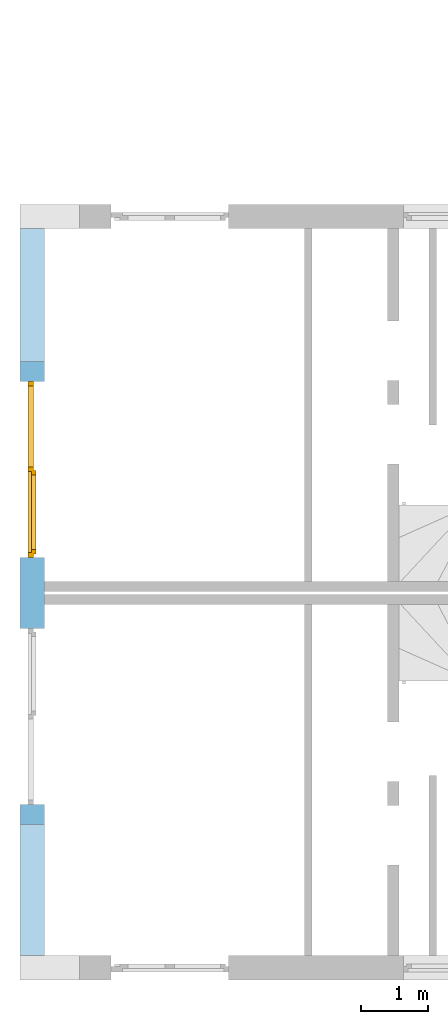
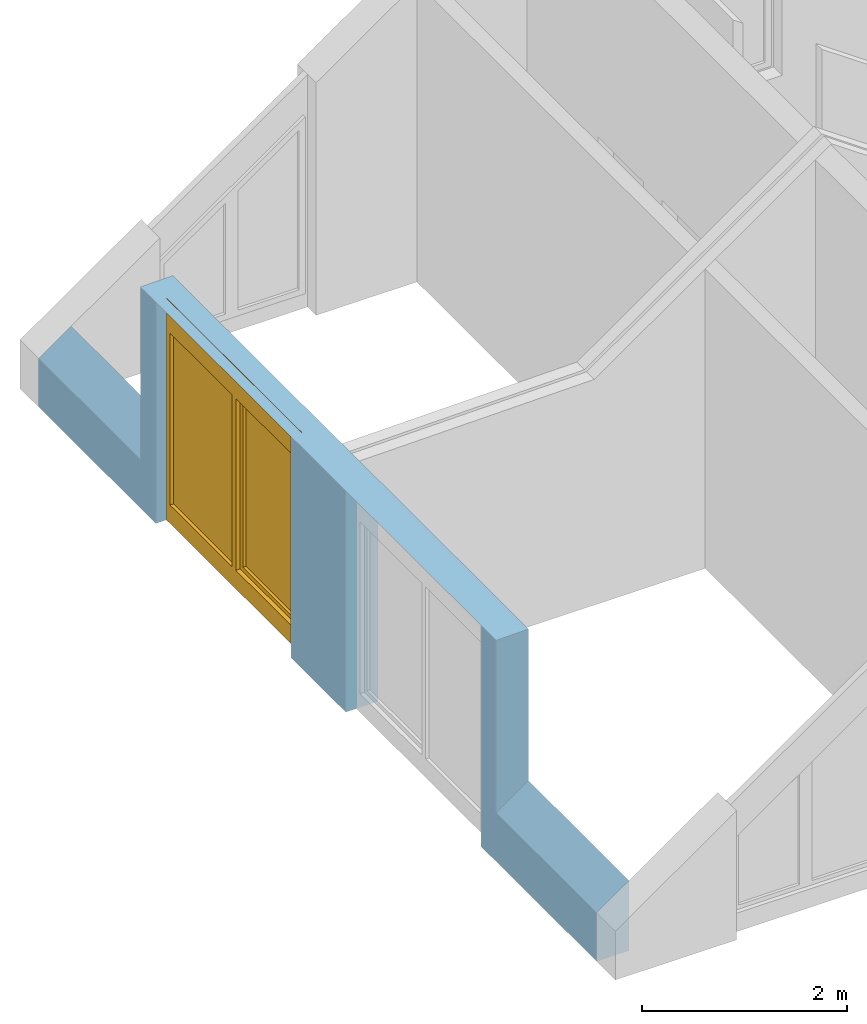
# One storey, part 6 of 23: 1 window, 2 openings, plus 1 element that does not belong to this part.
"""IFC2X3 building model written with IfcOpenShell, lengths in millimetres."""

from ifc_helpers import new_model, entity, si_unit, converted_unit, frame, frame_2d, origin, origin_with_axes, place, context, subcontext, project, spatial, polyline, rectangle, extrude, clip, bounded_halfspace, faceted_brep, material, layer, layer_set, layer_usage, type_object, element, fill, save


model = new_model("IFC2X3")

# Units and contexts
model_context = context("Model", 3, precision=1e-05, world=origin())
body_context = subcontext(model_context, "Body", "Model", "MODEL_VIEW")
ifc_project = project(units=[si_unit("LENGTHUNIT", "METRE", prefix="MILLI"), converted_unit("PLANEANGLEUNIT", "DEGREE", entity("IfcPlaneAngleMeasure", 0.0174532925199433), si_unit("PLANEANGLEUNIT", "RADIAN"), dimensions=[0, 0, 0, 0, 0, 0, 0]), si_unit("AREAUNIT", "SQUARE_METRE"), si_unit("VOLUMEUNIT", "CUBIC_METRE")], contexts=[model_context])

# Building, storey
building_placement = place(None, origin())
building = spatial("IfcBuilding", under=ifc_project, at=building_placement, Name="Gebäude", CompositionType="ELEMENT")
storey_placement = place(building_placement, frame((0.0, 0.0, 5580.0), z_axis=(0.0, 0.0, 1.0), x_axis=(1.0, 0.0, 0.0)))
storey = spatial("IfcBuildingStorey", under=building, at=storey_placement, Name="DG.- Grundriss", CompositionType="ELEMENT", Elevation=5580.0)

# Wall, openings, window
ifc_material_1 = material(Name="Poroton")
ifc_layer = layer(ifc_material_1, 365.0)
ifc_layer_set = layer_set([ifc_layer])
ifc_layer_usage = layer_usage(ifc_layer_set, "AXIS2", "POSITIVE", 0.0)
wall_placement = place(storey_placement, frame((130992.7928067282, 136524.8877324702, 0.0), z_axis=(0.0, 0.0, 1.0), x_axis=(1.336877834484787e-14, -1.0, 0.0)))
wall = element("IfcWallStandardCase", 1, at=wall_placement, inside=storey, material=ifc_layer_usage, Name="<Unnamed Element>", context=body_context, shape_type="Clipping", body=[
    clip(clip(clip(extrude(rectangle(XDim=10884.99999999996, YDim=365.0, at=frame_2d((5442.499999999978, 182.5), x_axis=(1.0, 0.0))), origin_with_axes(), (0.0, 0.0, 1.0), 2641.54564934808), bounded_halfspace(frame((4.879604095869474e-12, 365.0, 835.5757514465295), z_axis=(7.329234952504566e-15, 0.5735764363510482, -0.8191520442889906), x_axis=(-1.095106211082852e-14, -0.81915204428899, -0.5735764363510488)), True, origin(), polyline([(4.879604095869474e-12, 365.0), (0.0, 0.0), (1984.987487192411, 2.566972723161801e-12), (1984.987487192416, 365.0000000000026), (4.879604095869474e-12, 365.0)]))), bounded_halfspace(frame((8924.99999999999, 364.9999999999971, 835.5757514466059), z_axis=(7.320750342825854e-15, 0.5735764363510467, -0.8191520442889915), x_axis=(-1.095106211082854e-14, -0.8191520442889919, -0.573576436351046)), True, origin(), polyline([(8924.99999999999, 364.9999999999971), (8924.999999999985, -2.901024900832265e-12), (10884.99999999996, 0.0), (10885.00000001, 365.0), (8924.99999999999, 364.9999999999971)]))), bounded_halfspace(frame((1984.987487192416, 365.0000000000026, 2641.54564934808), z_axis=(1.372830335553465e-17, 0.01745240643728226, -0.9998476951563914), x_axis=(-1.336674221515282e-14, -0.9998476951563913, -0.01745240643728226)), True, origin(), polyline([(1984.987487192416, 365.0000000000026), (1984.987487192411, 2.566972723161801e-12), (8924.999999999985, -2.901024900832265e-12), (8924.99999999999, 364.9999999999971), (1984.987487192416, 365.0000000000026)]))),
])
opening_1_placement = place(wall_placement, frame((2284.987487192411, -4.147113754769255e-12, 0.0), z_axis=(0.0, 1.0, 0.0), x_axis=(0.0, 0.0, 1.0)))
opening_1 = element("IfcOpeningElement", 2, at=opening_1_placement, cuts=wall, Name="Fensteröffnung", ObjectType="Opening", context=body_context, shape_type="SweptSolid", body=[
    extrude(rectangle(XDim=2635.174550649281, YDim=2635.0, at=frame_2d((1317.58727532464, 1317.5), x_axis=(1.0, 0.0))), origin_with_axes(), (0.0, 0.0, 1.0), 365.0000000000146),
])
opening_2_placement = place(wall_placement, frame((5989.999999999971, 1.455191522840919e-13, 0.0), z_axis=(0.0, 1.0, 0.0), x_axis=(0.0, 0.0, 1.0)))
element("IfcOpeningElement", 3, at=opening_2_placement, cuts=wall, Name="Fensteröffnung", ObjectType="Opening", context=body_context, shape_type="SweptSolid", body=[
    extrude(rectangle(XDim=2635.174550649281, YDim=2635.0, at=frame_2d((1317.58727532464, 1317.5), x_axis=(1.0, 0.0))), origin_with_axes(), (0.0, 0.0, 1.0), 364.9999999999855),
])
ifc_material_2 = material()
window_style = type_object("IfcWindowStyle", Name="Fenster", ConstructionType="NOTDEFINED", OperationType="USERDEFINED", ParameterTakesPrecedence=False, Sizeable=False)
window_placement = place(opening_1_placement, frame((0.0, 0.0, 0.0), z_axis=(1.0, 0.0, 0.0), x_axis=(0.0, 1.0, 0.0)))
window = element("IfcWindow", 4, at=window_placement, inside=storey, type_object=window_style, material=ifc_material_2, Name="Fenster", OverallHeight=2641.54564934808, OverallWidth=2635.0, context=body_context, shape_type="Brep", body=[
    faceted_brep([(2635.000000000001, 199.9999999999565, 2637.269158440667), (2565.000000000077, 199.9999999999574, 2637.269158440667), (2565.000000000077, 199.9999999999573, -2.449293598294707e-15), (2635.000000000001, 199.9999999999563, -2.449293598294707e-15), (2635.0, 119.9999999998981, 2.449293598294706e-15), (2565.000000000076, 119.9999999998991, 2.449293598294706e-15), (2565.000000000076, 119.9999999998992, 2637.269158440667), (2635.0, 119.9999999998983, 2637.269158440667), (2635.000000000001, 199.9999999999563, -2.449293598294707e-15), (2635.0, 119.9999999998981, 2.449293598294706e-15), (2635.0, 119.9999999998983, 2637.269158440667), (2635.000000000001, 199.9999999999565, 2637.269158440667), (2565.000000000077, 199.9999999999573, -2.449293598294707e-15), (2565.000000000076, 119.9999999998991, 2.449293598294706e-15), (2635.0, 119.9999999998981, 2.449293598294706e-15), (2635.000000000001, 199.9999999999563, -2.449293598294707e-15), (2565.000000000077, 199.9999999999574, 2637.269158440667), (2565.000000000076, 119.9999999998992, 2637.269158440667), (2565.000000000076, 119.9999999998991, 2.449293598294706e-15), (2565.000000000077, 199.9999999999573, -2.449293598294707e-15), (2635.000000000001, 199.9999999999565, 2637.269158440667), (2635.0, 119.9999999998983, 2637.269158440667), (2565.000000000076, 119.9999999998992, 2637.269158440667), (2565.000000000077, 199.9999999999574, 2637.269158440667)], [[[0, 1, 2, 3]], [[4, 5, 6, 7]], [[8, 9, 10, 11]], [[12, 13, 14, 15]], [[16, 17, 18, 19]], [[20, 21, 22, 23]]], orient=[[False], [False], [False], [False], [False], [False]]),
    faceted_brep([(70.00000000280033, 199.9999999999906, 2637.269158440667), (2.876731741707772e-09, 199.9999999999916, 2637.269158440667), (2.876731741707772e-09, 199.9999999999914, -2.449293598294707e-15), (70.00000000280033, 199.9999999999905, -2.449293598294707e-15), (70.00000000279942, 119.9999999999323, 2.449293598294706e-15), (2.875822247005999e-09, 119.9999999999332, 2.449293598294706e-15), (2.875822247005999e-09, 119.9999999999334, 2637.269158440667), (70.00000000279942, 119.9999999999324, 2637.269158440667), (70.00000000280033, 199.9999999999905, -2.449293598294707e-15), (70.00000000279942, 119.9999999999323, 2.449293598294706e-15), (70.00000000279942, 119.9999999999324, 2637.269158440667), (70.00000000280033, 199.9999999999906, 2637.269158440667), (2.876731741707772e-09, 199.9999999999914, -2.449293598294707e-15), (2.875822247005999e-09, 119.9999999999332, 2.449293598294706e-15), (70.00000000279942, 119.9999999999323, 2.449293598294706e-15), (70.00000000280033, 199.9999999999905, -2.449293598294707e-15), (2.876731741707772e-09, 199.9999999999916, 2637.269158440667), (2.875822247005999e-09, 119.9999999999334, 2637.269158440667), (2.875822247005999e-09, 119.9999999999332, 2.449293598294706e-15), (2.876731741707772e-09, 199.9999999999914, -2.449293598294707e-15), (70.00000000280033, 199.9999999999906, 2637.269158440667), (70.00000000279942, 119.9999999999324, 2637.269158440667), (2.875822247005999e-09, 119.9999999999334, 2637.269158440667), (2.876731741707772e-09, 199.9999999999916, 2637.269158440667)], [[[0, 1, 2, 3]], [[4, 5, 6, 7]], [[8, 9, 10, 11]], [[12, 13, 14, 15]], [[16, 17, 18, 19]], [[20, 21, 22, 23]]], orient=[[False], [False], [False], [False], [False], [False]]),
    faceted_brep([(2565.000000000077, 199.9999999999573, 220.0), (70.00000000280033, 199.9999999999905, 220.0), (70.00000000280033, 199.9999999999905, -2.449293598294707e-15), (2565.000000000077, 199.9999999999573, -2.449293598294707e-15), (2565.000000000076, 119.9999999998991, 2.449293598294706e-15), (70.00000000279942, 119.9999999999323, 2.449293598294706e-15), (70.00000000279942, 119.9999999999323, 220.0), (2565.000000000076, 119.9999999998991, 220.0), (2565.000000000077, 199.9999999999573, -2.449293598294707e-15), (2565.000000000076, 119.9999999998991, 2.449293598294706e-15), (2565.000000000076, 119.9999999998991, 220.0), (2565.000000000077, 199.9999999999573, 220.0), (70.00000000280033, 199.9999999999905, -2.449293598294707e-15), (70.00000000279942, 119.9999999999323, 2.449293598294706e-15), (2565.000000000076, 119.9999999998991, 2.449293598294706e-15), (2565.000000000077, 199.9999999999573, -2.449293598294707e-15), (70.00000000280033, 199.9999999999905, 220.0), (70.00000000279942, 119.9999999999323, 220.0), (70.00000000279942, 119.9999999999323, 2.449293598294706e-15), (70.00000000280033, 199.9999999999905, -2.449293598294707e-15), (2565.000000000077, 199.9999999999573, 220.0), (2565.000000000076, 119.9999999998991, 220.0), (70.00000000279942, 119.9999999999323, 220.0), (70.00000000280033, 199.9999999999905, 220.0)], [[[0, 1, 2, 3]], [[4, 5, 6, 7]], [[8, 9, 10, 11]], [[12, 13, 14, 15]], [[16, 17, 18, 19]], [[20, 21, 22, 23]]], orient=[[False], [False], [False], [False], [False], [False]]),
    faceted_brep([(2565.000000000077, 199.9999999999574, 2637.269158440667), (70.00000000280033, 199.9999999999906, 2637.269158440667), (70.00000000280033, 199.9999999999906, 2267.269158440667), (2565.000000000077, 199.9999999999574, 2267.269158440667), (2565.000000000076, 119.9999999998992, 2267.269158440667), (70.00000000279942, 119.9999999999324, 2267.269158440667), (70.00000000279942, 119.9999999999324, 2637.269158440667), (2565.000000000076, 119.9999999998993, 2637.269158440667), (2565.000000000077, 199.9999999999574, 2267.269158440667), (2565.000000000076, 119.9999999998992, 2267.269158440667), (2565.000000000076, 119.9999999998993, 2637.269158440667), (2565.000000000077, 199.9999999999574, 2637.269158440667), (70.00000000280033, 199.9999999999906, 2267.269158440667), (70.00000000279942, 119.9999999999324, 2267.269158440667), (2565.000000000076, 119.9999999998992, 2267.269158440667), (2565.000000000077, 199.9999999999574, 2267.269158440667), (70.00000000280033, 199.9999999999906, 2637.269158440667), (70.00000000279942, 119.9999999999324, 2637.269158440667), (70.00000000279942, 119.9999999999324, 2267.269158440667), (70.00000000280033, 199.9999999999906, 2267.269158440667), (2565.000000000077, 199.9999999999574, 2637.269158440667), (2565.000000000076, 119.9999999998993, 2637.269158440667), (70.00000000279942, 119.9999999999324, 2637.269158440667), (70.00000000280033, 199.9999999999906, 2637.269158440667)], [[[0, 1, 2, 3]], [[4, 5, 6, 7]], [[8, 9, 10, 11]], [[12, 13, 14, 15]], [[16, 17, 18, 19]], [[20, 21, 22, 23]]], orient=[[False], [False], [False], [False], [False], [False]]),
    faceted_brep([(1352.500000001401, 199.9999999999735, 2267.269158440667), (1282.500000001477, 199.9999999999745, 2267.269158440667), (1282.500000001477, 199.9999999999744, 220.0), (1352.500000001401, 199.9999999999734, 220.0), (1352.5000000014, 119.9999999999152, 220.0), (1282.500000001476, 119.9999999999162, 220.0), (1282.500000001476, 119.9999999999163, 2267.269158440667), (1352.5000000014, 119.9999999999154, 2267.269158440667), (1352.500000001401, 199.9999999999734, 220.0), (1352.5000000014, 119.9999999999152, 220.0), (1352.5000000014, 119.9999999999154, 2267.269158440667), (1352.500000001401, 199.9999999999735, 2267.269158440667), (1282.500000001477, 199.9999999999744, 220.0), (1282.500000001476, 119.9999999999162, 220.0), (1352.5000000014, 119.9999999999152, 220.0), (1352.500000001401, 199.9999999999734, 220.0), (1282.500000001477, 199.9999999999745, 2267.269158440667), (1282.500000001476, 119.9999999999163, 2267.269158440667), (1282.500000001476, 119.9999999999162, 220.0), (1282.500000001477, 199.9999999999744, 220.0), (1352.500000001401, 199.9999999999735, 2267.269158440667), (1352.5000000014, 119.9999999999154, 2267.269158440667), (1282.500000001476, 119.9999999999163, 2267.269158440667), (1282.500000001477, 199.9999999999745, 2267.269158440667)], [[[0, 1, 2, 3]], [[4, 5, 6, 7]], [[8, 9, 10, 11]], [[12, 13, 14, 15]], [[16, 17, 18, 19]], [[20, 21, 22, 23]]], orient=[[False], [False], [False], [False], [False], [False]]),
    faceted_brep([(2585.000000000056, 239.9999999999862, 2287.269158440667), (2515.000000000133, 239.9999999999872, 2287.269158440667), (2515.000000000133, 239.999999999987, 200.0), (2585.000000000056, 239.9999999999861, 200.0), (2585.000000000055, 169.9999999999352, 200.0), (2515.000000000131, 169.9999999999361, 200.0), (2515.000000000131, 169.9999999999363, 2287.269158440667), (2585.000000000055, 169.9999999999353, 2287.269158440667), (2585.000000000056, 239.9999999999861, 200.0), (2585.000000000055, 169.9999999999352, 200.0), (2585.000000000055, 169.9999999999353, 2287.269158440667), (2585.000000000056, 239.9999999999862, 2287.269158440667), (2515.000000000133, 239.999999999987, 200.0), (2515.000000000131, 169.9999999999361, 200.0), (2585.000000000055, 169.9999999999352, 200.0), (2585.000000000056, 239.9999999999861, 200.0), (2515.000000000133, 239.9999999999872, 2287.269158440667), (2515.000000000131, 169.9999999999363, 2287.269158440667), (2515.000000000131, 169.9999999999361, 200.0), (2515.000000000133, 239.999999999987, 200.0), (2585.000000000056, 239.9999999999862, 2287.269158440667), (2585.000000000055, 169.9999999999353, 2287.269158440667), (2515.000000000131, 169.9999999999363, 2287.269158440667), (2515.000000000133, 239.9999999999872, 2287.269158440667)], [[[0, 1, 2, 3]], [[4, 5, 6, 7]], [[8, 9, 10, 11]], [[12, 13, 14, 15]], [[16, 17, 18, 19]], [[20, 21, 22, 23]]], orient=[[False], [False], [False], [False], [False], [False]]),
    faceted_brep([(1402.500000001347, 240.000000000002, 2287.269158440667), (1332.500000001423, 240.0000000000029, 2287.269158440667), (1332.500000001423, 240.0000000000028, 200.0), (1402.500000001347, 240.0000000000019, 200.0), (1402.500000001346, 169.9999999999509, 200.0), (1332.500000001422, 169.9999999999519, 200.0), (1332.500000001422, 169.999999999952, 2287.269158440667), (1402.500000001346, 169.9999999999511, 2287.269158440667), (1402.500000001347, 240.0000000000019, 200.0), (1402.500000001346, 169.9999999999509, 200.0), (1402.500000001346, 169.9999999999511, 2287.269158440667), (1402.500000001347, 240.000000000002, 2287.269158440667), (1332.500000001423, 240.0000000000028, 200.0), (1332.500000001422, 169.9999999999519, 200.0), (1402.500000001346, 169.9999999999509, 200.0), (1402.500000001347, 240.0000000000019, 200.0), (1332.500000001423, 240.0000000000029, 2287.269158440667), (1332.500000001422, 169.999999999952, 2287.269158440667), (1332.500000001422, 169.9999999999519, 200.0), (1332.500000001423, 240.0000000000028, 200.0), (1402.500000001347, 240.000000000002, 2287.269158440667), (1402.500000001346, 169.9999999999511, 2287.269158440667), (1332.500000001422, 169.999999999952, 2287.269158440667), (1332.500000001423, 240.0000000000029, 2287.269158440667)], [[[0, 1, 2, 3]], [[4, 5, 6, 7]], [[8, 9, 10, 11]], [[12, 13, 14, 15]], [[16, 17, 18, 19]], [[20, 21, 22, 23]]], orient=[[False], [False], [False], [False], [False], [False]]),
    faceted_brep([(2515.000000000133, 239.999999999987, 269.9999999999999), (1402.500000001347, 240.0000000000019, 269.9999999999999), (1402.500000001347, 240.0000000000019, 200.0), (2515.000000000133, 239.999999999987, 200.0), (2515.000000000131, 169.9999999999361, 200.0), (1402.500000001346, 169.9999999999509, 200.0), (1402.500000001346, 169.9999999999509, 269.9999999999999), (2515.000000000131, 169.9999999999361, 269.9999999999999), (2515.000000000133, 239.999999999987, 200.0), (2515.000000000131, 169.9999999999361, 200.0), (2515.000000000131, 169.9999999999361, 269.9999999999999), (2515.000000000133, 239.999999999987, 269.9999999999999), (1402.500000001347, 240.0000000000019, 200.0), (1402.500000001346, 169.9999999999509, 200.0), (2515.000000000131, 169.9999999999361, 200.0), (2515.000000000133, 239.999999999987, 200.0), (1402.500000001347, 240.0000000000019, 269.9999999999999), (1402.500000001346, 169.9999999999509, 269.9999999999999), (1402.500000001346, 169.9999999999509, 200.0), (1402.500000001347, 240.0000000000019, 200.0), (2515.000000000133, 239.999999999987, 269.9999999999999), (2515.000000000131, 169.9999999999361, 269.9999999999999), (1402.500000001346, 169.9999999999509, 269.9999999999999), (1402.500000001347, 240.0000000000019, 269.9999999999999)], [[[0, 1, 2, 3]], [[4, 5, 6, 7]], [[8, 9, 10, 11]], [[12, 13, 14, 15]], [[16, 17, 18, 19]], [[20, 21, 22, 23]]], orient=[[False], [False], [False], [False], [False], [False]]),
    faceted_brep([(2515.000000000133, 239.9999999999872, 2287.269158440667), (1402.500000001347, 240.000000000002, 2287.269158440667), (1402.500000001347, 240.000000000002, 2217.269158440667), (2515.000000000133, 239.9999999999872, 2217.269158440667), (2515.000000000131, 169.9999999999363, 2217.269158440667), (1402.500000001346, 169.9999999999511, 2217.269158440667), (1402.500000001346, 169.9999999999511, 2287.269158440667), (2515.000000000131, 169.9999999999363, 2287.269158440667), (2515.000000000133, 239.9999999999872, 2217.269158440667), (2515.000000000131, 169.9999999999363, 2217.269158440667), (2515.000000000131, 169.9999999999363, 2287.269158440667), (2515.000000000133, 239.9999999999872, 2287.269158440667), (1402.500000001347, 240.000000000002, 2217.269158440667), (1402.500000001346, 169.9999999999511, 2217.269158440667), (2515.000000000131, 169.9999999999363, 2217.269158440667), (2515.000000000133, 239.9999999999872, 2217.269158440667), (1402.500000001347, 240.000000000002, 2287.269158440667), (1402.500000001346, 169.9999999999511, 2287.269158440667), (1402.500000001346, 169.9999999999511, 2217.269158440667), (1402.500000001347, 240.000000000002, 2217.269158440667), (2515.000000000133, 239.9999999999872, 2287.269158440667), (2515.000000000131, 169.9999999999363, 2287.269158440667), (1402.500000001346, 169.9999999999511, 2287.269158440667), (1402.500000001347, 240.000000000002, 2287.269158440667)], [[[0, 1, 2, 3]], [[4, 5, 6, 7]], [[8, 9, 10, 11]], [[12, 13, 14, 15]], [[16, 17, 18, 19]], [[20, 21, 22, 23]]], orient=[[False], [False], [False], [False], [False], [False]]),
    faceted_brep([(1282.500000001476, 159.9999999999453, 220.0), (1282.500000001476, 159.9999999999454, 2267.269158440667), (70.00000000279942, 159.9999999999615, 2267.269158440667), (70.00000000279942, 159.9999999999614, 220.0), (1282.500000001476, 158.9999999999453, 220.0), (70.00000000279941, 158.9999999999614, 220.0), (70.00000000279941, 158.9999999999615, 2267.269158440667), (1282.500000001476, 158.9999999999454, 2267.269158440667), (1282.500000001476, 159.9999999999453, 220.0), (1282.500000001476, 158.9999999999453, 220.0), (1282.500000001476, 158.9999999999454, 2267.269158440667), (1282.500000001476, 159.9999999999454, 2267.269158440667), (1282.500000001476, 159.9999999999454, 2267.269158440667), (1282.500000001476, 158.9999999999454, 2267.269158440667), (70.00000000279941, 158.9999999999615, 2267.269158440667), (70.00000000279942, 159.9999999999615, 2267.269158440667), (70.00000000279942, 159.9999999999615, 2267.269158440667), (70.00000000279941, 158.9999999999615, 2267.269158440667), (70.00000000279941, 158.9999999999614, 220.0), (70.00000000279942, 159.9999999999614, 220.0), (70.00000000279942, 159.9999999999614, 220.0), (70.00000000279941, 158.9999999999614, 220.0), (1282.500000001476, 158.9999999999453, 220.0), (1282.500000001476, 159.9999999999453, 220.0)], [[[0, 1, 2, 3]], [[4, 5, 6, 7]], [[8, 9, 10, 11]], [[12, 13, 14, 15]], [[16, 17, 18, 19]], [[20, 21, 22, 23]]], orient=[[False], [False], [False], [False], [False], [False]]),
    faceted_brep([(2515.000000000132, 204.9999999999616, 269.9999999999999), (2515.000000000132, 204.9999999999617, 2217.269158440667), (1402.500000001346, 204.9999999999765, 2217.269158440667), (1402.500000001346, 204.9999999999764, 269.9999999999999), (2515.000000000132, 203.9999999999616, 269.9999999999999), (1402.500000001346, 203.9999999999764, 269.9999999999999), (1402.500000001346, 203.9999999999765, 2217.269158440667), (2515.000000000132, 203.9999999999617, 2217.269158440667), (2515.000000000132, 204.9999999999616, 269.9999999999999), (2515.000000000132, 203.9999999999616, 269.9999999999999), (2515.000000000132, 203.9999999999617, 2217.269158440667), (2515.000000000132, 204.9999999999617, 2217.269158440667), (2515.000000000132, 204.9999999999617, 2217.269158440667), (2515.000000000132, 203.9999999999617, 2217.269158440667), (1402.500000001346, 203.9999999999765, 2217.269158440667), (1402.500000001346, 204.9999999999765, 2217.269158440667), (1402.500000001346, 204.9999999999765, 2217.269158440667), (1402.500000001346, 203.9999999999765, 2217.269158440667), (1402.500000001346, 203.9999999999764, 269.9999999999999), (1402.500000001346, 204.9999999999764, 269.9999999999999), (1402.500000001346, 204.9999999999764, 269.9999999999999), (1402.500000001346, 203.9999999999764, 269.9999999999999), (2515.000000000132, 203.9999999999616, 269.9999999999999), (2515.000000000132, 204.9999999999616, 269.9999999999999)], [[[0, 1, 2, 3]], [[4, 5, 6, 7]], [[8, 9, 10, 11]], [[12, 13, 14, 15]], [[16, 17, 18, 19]], [[20, 21, 22, 23]]], orient=[[False], [False], [False], [False], [False], [False]]),
])
fill(opening_1, window)

save(model, "model.ifc")
